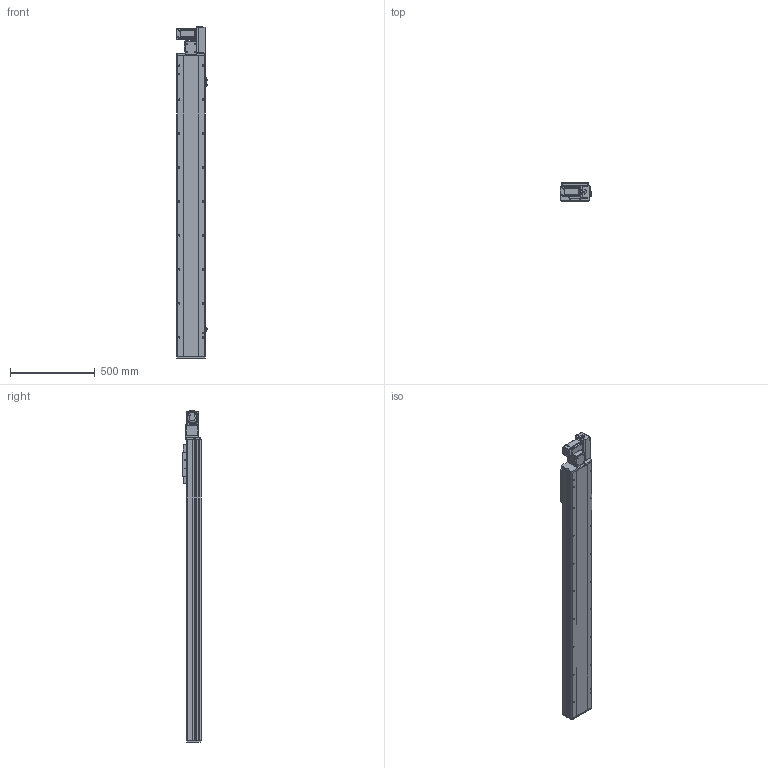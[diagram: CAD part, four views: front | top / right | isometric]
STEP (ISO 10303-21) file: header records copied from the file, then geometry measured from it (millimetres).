
FILE_DESCRIPTION (( 'STEP AP214' ), '1' );
FILE_NAME ('TPE17-L40-1450-R-T40-C4.STEP', '2023-04-12T07:18:22', ( '' ), ( '' ), 'SwSTEP 2.0', 'SolidWorks 2020', '' );
FILE_SCHEMA (( 'AUTOMOTIVE_DESIGN' ));
Length unit declared in the file: millimetre
Products named in the file (12): 葩璃 侂狟400W^TPE17-L40-R-T40-C4; 葩璃 詩湍110^TPE17-L40-R-T40-C4; 葩璃 pm-t65-672^TPE17-L40-R-T40-C4; hexagon socket head cap screws gb_GB_FASTENER_SCREWS_HSHCS M3X6-N; TPE17-L40-1450-R-T40-C4; 葩璃 TPE17-L-001 菁釱MZ-170-01^TPE17-L40-R-T40-C4; 葩璃 TPE17-L-007 々湍釱MZ-169x88^TPE17-L40-R-T40-C4_TPE17; hex nuts, style 1-grades ab gb_GB_FASTENER_NUT_SNAB1 M3-N; hexagon head bolts-full thread gb_GB_FASTENER_BOLT_STBAB A M5X16-N; 葩璃 TPE17-L-002 耜裔ZTMZ-135-04^TPE17-L40-R-T40-C4; 葩璃 TPT14-L-009 萇儂啣^TPE17-L40-R-T40-C4_400W; 葩璃 TPE17 賑雄殤^TPE17-L40-R-T40-C4
Assembly tree (24 placements, depth 2):
  TPE17-L40-1450-R-T40-C4
    葩璃 TPE17-L-001 菁釱MZ-170-01^TPE17-L40-R-T40-C4
    葩璃 TPE17-L-002 耜裔ZTMZ-135-04^TPE17-L40-R-T40-C4  x2
    葩璃 詩湍110^TPE17-L40-R-T40-C4
    葩璃 TPE17-L-007 々湍釱MZ-169x88^TPE17-L40-R-T40-C4_TPE17
    葩璃 TPT14-L-009 萇儂啣^TPE17-L40-R-T40-C4_400W
    葩璃 TPE17 賑雄殤^TPE17-L40-R-T40-C4
    葩璃 pm-t65-672^TPE17-L40-R-T40-C4  x3
    葩璃 侂狟400W^TPE17-L40-R-T40-C4
    hexagon socket head cap screws gb_GB_FASTENER_SCREWS_HSHCS M3X6-N  x6
    hex nuts, style 1-grades ab gb_GB_FASTENER_NUT_SNAB1 M3-N  x6
    hexagon head bolts-full thread gb_GB_FASTENER_BOLT_STBAB A M5X16-N
Bounding box: 186.2 x 107 x 1953.65 mm (x, y, z)
Volume: 16639570.7 mm3; surface area: 2189295.3 mm2
Topology: 35 solids, 35 shells, 1714 faces, 4367 edges, 2748 vertices
Faces by surface type: plane 981, cylinder 473, cone 214, bspline 34, torus 12
Entity records: 40355 total; most frequent: CARTESIAN_POINT 7888, DIRECTION 6472, ORIENTED_EDGE 6246, EDGE_CURVE 3123, AXIS2_PLACEMENT_3D 2205, VECTOR 2062, LINE 2062, VERTEX_POINT 2011
